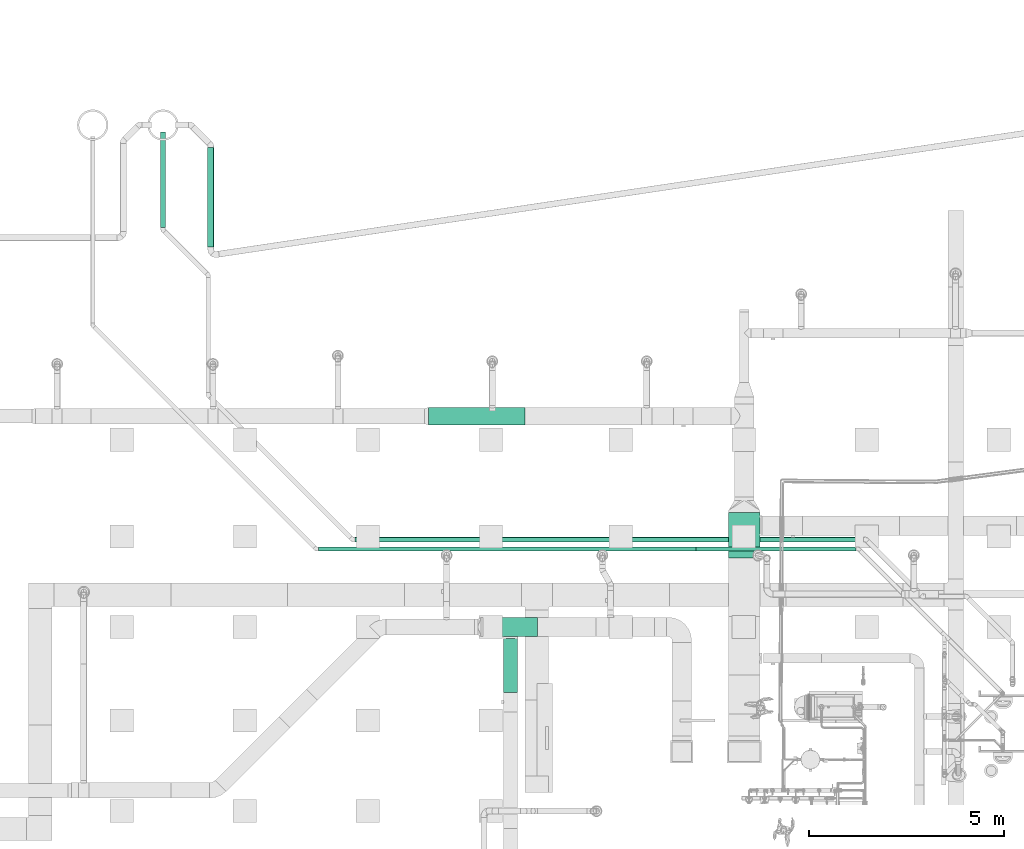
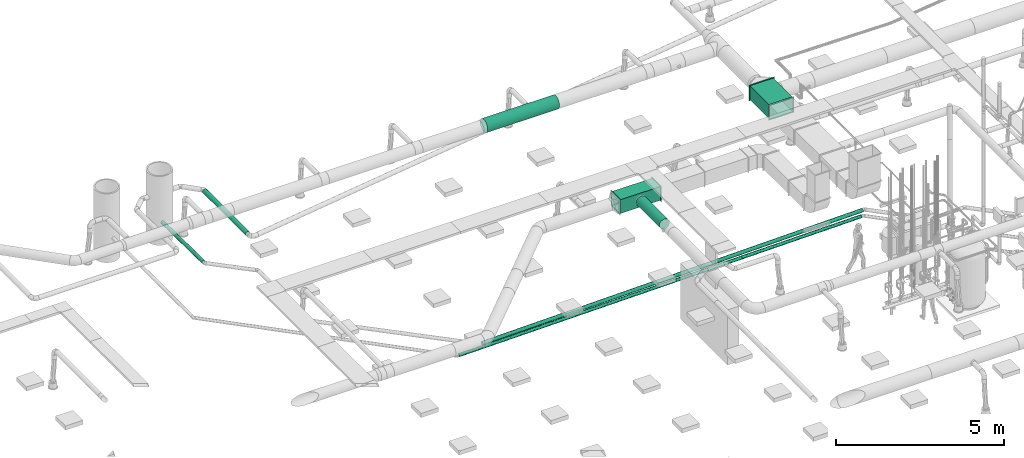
# One storey, part 222 of 374: 9 flow segments.
"""IFC2X3 building model written with IfcOpenShell, lengths in metres."""

from ifc_helpers import new_model, si_unit, direction, origin, place, context, subcontext, project, spatial, open_shell, surface_model, source, transform, mapped, element, save


model = new_model("IFC2X3")

# Units and contexts
model_context = context("Model", 3, precision=1e-05, world=origin(), true_north=direction((-0.4480736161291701, 0.8939966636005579)))
body_context = subcontext(model_context, "Body", "Model", "MODEL_VIEW")
ifc_project = project(units=[si_unit("LENGTHUNIT", "METRE"), si_unit("AREAUNIT", "SQUARE_METRE"), si_unit("VOLUMEUNIT", "CUBIC_METRE"), si_unit("PLANEANGLEUNIT", "RADIAN"), si_unit("THERMODYNAMICTEMPERATUREUNIT", "KELVIN"), si_unit("MASSUNIT", "GRAM", prefix="KILO"), si_unit("TIMEUNIT", "SECOND")], contexts=[model_context])

# Site, building, storey
site_placement = place(None, origin())
site = spatial("IfcSite", under=ifc_project, at=site_placement, Name="Site 1", CompositionType="ELEMENT")
building_placement = place(site_placement, origin())
building = spatial("IfcBuilding", under=site, at=building_placement, Name="Undefined", CompositionType="ELEMENT")
storey_placement = place(building_placement, origin())
storey = spatial("IfcBuildingStorey", under=building, at=storey_placement, Name="Rez de chauss\x8ee", CompositionType="ELEMENT", Elevation=0.0)

# Flow segments
shared_shape_1 = source(origin(), body_context, "Body", "SurfaceModel", [
    surface_model("IfcFaceBasedSurfaceModel", [(0.0, 0.020884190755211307, 0.0), (0.0, 0.0, 0.0), (2.554618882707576, 0.0, -1.776356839e-15), (2.554618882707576, 0.020884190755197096, -1.776356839e-15), (0.0, -0.020172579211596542, -0.005405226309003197), (2.554618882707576, -0.020172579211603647, -0.005405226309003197), (0.0, -0.03825881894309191, -0.015847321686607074), (2.554618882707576, -0.03825881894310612, -0.015847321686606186), (0.0, -0.05302617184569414, -0.0306146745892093), (2.554618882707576, -0.05302617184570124, -0.030614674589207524), (0.0, -0.06346826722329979, -0.04870091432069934), (2.554618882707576, -0.0634682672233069, -0.048700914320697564), (0.0, -0.06887349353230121, -0.06887349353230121), (2.554618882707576, -0.06887349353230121, -0.06887349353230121), (0.0, -0.06887349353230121, -0.08975768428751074), (2.554618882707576, -0.06887349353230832, -0.08975768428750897), (0.0, -0.06346826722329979, -0.10993026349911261), (2.554618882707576, -0.0634682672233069, -0.10993026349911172), (0.0, -0.05302617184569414, -0.12801650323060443), (2.554618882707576, -0.05302617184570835, -0.12801650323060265), (0.0, -0.038258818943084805, -0.14278385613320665), (2.554618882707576, -0.038258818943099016, -0.14278385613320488), (0.0, -0.020172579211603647, -0.15322595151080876), (2.554618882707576, -0.020172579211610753, -0.15322595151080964), (0.0, 7.105427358e-15, -0.15863117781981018), (2.554618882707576, -7.105427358e-15, -0.15863117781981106), (0.0, 0.020884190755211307, -0.15863117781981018), (2.554618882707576, 0.020884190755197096, -0.15863117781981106), (0.0, 0.04105676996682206, -0.15322595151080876), (2.554618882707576, 0.041056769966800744, -0.15322595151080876), (0.0, 0.05914300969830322, -0.1427838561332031), (2.554618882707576, 0.05914300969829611, -0.14278385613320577), (0.0, 0.07391036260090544, -0.12801650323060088), (2.554618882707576, 0.07391036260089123, -0.12801650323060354), (0.0, 0.0843524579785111, -0.10993026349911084), (2.554618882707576, 0.08435245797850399, -0.10993026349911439), (0.0, 0.08975768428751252, -0.08975768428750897), (2.554618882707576, 0.08975768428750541, -0.08975768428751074), (0.0, 0.08975768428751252, -0.06887349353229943), (2.554618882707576, 0.08975768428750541, -0.06887349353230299), (0.0, 0.0843524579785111, -0.048700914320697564), (2.554618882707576, 0.08435245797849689, -0.04870091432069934), (0.0, 0.07391036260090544, -0.030614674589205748), (2.554618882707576, 0.07391036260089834, -0.0306146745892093), (0.0, 0.05914300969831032, -0.015847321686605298), (2.554618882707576, 0.05914300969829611, -0.015847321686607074), (0.0, 0.04105676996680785, -0.005405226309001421), (2.554618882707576, 0.04105676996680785, -0.005405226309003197)], [open_shell([[[0, 1, 2, 3]], [[1, 4, 5, 2]], [[4, 6, 7, 5]], [[6, 8, 9, 7]], [[8, 10, 11, 9]], [[10, 12, 13, 11]], [[12, 14, 15, 13]], [[14, 16, 17, 15]], [[16, 18, 19, 17]], [[18, 20, 21, 19]], [[20, 22, 23, 21]], [[22, 24, 25, 23]], [[24, 26, 27, 25]], [[26, 28, 29, 27]], [[28, 30, 31, 29]], [[30, 32, 33, 31]], [[32, 34, 35, 33]], [[34, 36, 37, 35]], [[36, 38, 39, 37]], [[38, 40, 41, 39]], [[40, 42, 43, 41]], [[42, 44, 45, 43]], [[44, 46, 47, 45]], [[46, 0, 3, 47]]])]),
])
flow_segment_1_placement = place(storey_placement, origin())
element("IfcFlowSegment", 1, at=flow_segment_1_placement, inside=storey, Name="PE-HD tuyau", ObjectType="PE-HD tuyau", context=body_context, shape_type="MappedRepresentation", body=[
    mapped(shared_shape_1, transform((38.25758280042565, 24.87054166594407, -0.7163137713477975), x_axis=(0.0, 1.0, 0.0), y_axis=(-0.9914448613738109, 0.0, 0.1305261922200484), z_axis=(0.1305261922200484, 0.0, 0.9914448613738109))),
])
shared_shape_2 = source(origin(), body_context, "Body", "SurfaceModel", [
    surface_model("IfcFaceBasedSurfaceModel", [(0.0, 0.014357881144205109, -3.552713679e-15), (0.0, 0.0, 0.0), (4.118798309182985, -3.552713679e-15, 0.0), (4.118798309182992, 0.014357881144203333, 0.0), (0.0, -0.01386864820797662, -0.0037160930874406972), (4.118798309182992, -0.013868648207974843, -0.003716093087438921), (0.0, -0.026302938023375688, -0.010895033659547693), (4.118798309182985, -0.026302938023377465, -0.010895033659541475), (0.0, -0.03645549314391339, -0.021047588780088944), (4.118798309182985, -0.036455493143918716, -0.021047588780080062), (0.0, -0.04363443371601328, -0.033481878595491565), (4.118798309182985, -0.043634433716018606, -0.03348187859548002), (0.0, -0.04735052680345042, -0.04735052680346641), (4.118798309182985, -0.0473505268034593, -0.04735052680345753), (0.0, -0.04735052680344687, -0.06170840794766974), (4.118798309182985, -0.0473505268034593, -0.061708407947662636), (0.0, -0.04363443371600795, -0.07557705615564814), (4.118798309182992, -0.04363443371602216, -0.07557705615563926), (0.0, -0.03645549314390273, -0.08801134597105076), (4.118798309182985, -0.036455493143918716, -0.0880113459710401), (0.0, -0.026302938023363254, -0.0981639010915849), (4.118798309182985, -0.026302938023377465, -0.0981639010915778), (0.0, -0.013868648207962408, -0.1053428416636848), (4.118798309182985, -0.013868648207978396, -0.10534284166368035), (0.0, 1.5987211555e-14, -0.10905893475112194), (4.118798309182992, 0.0, -0.10905893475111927), (0.0, 0.014357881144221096, -0.10905893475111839), (4.118798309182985, 0.014357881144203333, -0.10905893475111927), (0.0, 0.028226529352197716, -0.10534284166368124), (4.118798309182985, 0.02822652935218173, -0.10534284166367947), (0.0, 0.040660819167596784, -0.0981639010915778), (4.118798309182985, 0.0406608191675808, -0.0981639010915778), (0.0, 0.05081337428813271, -0.08801134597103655), (4.118798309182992, 0.050813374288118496, -0.08801134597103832), (0.0, 0.05799231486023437, -0.07557705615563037), (4.118798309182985, 0.05799231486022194, -0.07557705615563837), (0.0, 0.06170840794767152, -0.06170840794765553), (4.118798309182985, 0.06170840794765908, -0.061708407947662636), (0.0, 0.061708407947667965, -0.0473505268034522), (4.118798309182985, 0.061708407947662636, -0.04735052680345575), (0.0, 0.05799231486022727, -0.033481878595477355), (4.118798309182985, 0.05799231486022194, -0.03348187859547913), (0.0, 0.050813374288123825, -0.021047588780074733), (4.118798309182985, 0.05081337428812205, -0.021047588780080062), (0.0, 0.04066081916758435, -0.010895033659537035), (4.118798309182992, 0.04066081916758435, -0.010895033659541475), (0.0, 0.028226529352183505, -0.0037160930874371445), (4.118798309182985, 0.028226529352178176, -0.003716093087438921)], [open_shell([[[0, 1, 2, 3]], [[1, 4, 5, 2]], [[4, 6, 7, 5]], [[6, 8, 9, 7]], [[8, 10, 11, 9]], [[10, 12, 13, 11]], [[12, 14, 15, 13]], [[14, 16, 17, 15]], [[16, 18, 19, 17]], [[18, 20, 21, 19]], [[20, 22, 23, 21]], [[22, 24, 25, 23]], [[24, 26, 27, 25]], [[26, 28, 29, 27]], [[28, 30, 31, 29]], [[30, 32, 33, 31]], [[32, 34, 35, 33]], [[34, 36, 37, 35]], [[36, 38, 39, 37]], [[38, 40, 41, 39]], [[40, 42, 43, 41]], [[42, 44, 45, 43]], [[44, 46, 47, 45]], [[46, 0, 3, 47]]])]),
])
flow_segment_2_placement = place(storey_placement, origin())
element("IfcFlowSegment", 2, at=flow_segment_2_placement, inside=storey, Name="PE-HD tuyau", ObjectType="PE-HD tuyau", context=body_context, shape_type="MappedRepresentation", body=[
    mapped(shared_shape_2, transform((50.69233432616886, 17.10189629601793, -1.269252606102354), x_axis=(0.9998875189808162, 0.0, 0.014998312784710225), y_axis=(-0.0019576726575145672, 0.9914448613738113, 0.13051151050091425), z_axis=(-0.014870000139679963, -0.13052619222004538, 0.9913333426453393))),
])
shared_shape_3 = source(origin(), body_context, "Body", "SurfaceModel", [
    surface_model("IfcFaceBasedSurfaceModel", [(0.0, 0.014357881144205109, -3.552713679e-15), (0.0, 0.0, 0.0), (9.692104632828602, -3.552713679e-15, -3.33066907e-16), (9.69210463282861, 0.01435788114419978, -5.55111512e-16), (0.0, -0.01386864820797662, -0.0037160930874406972), (9.692104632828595, -0.013868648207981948, -0.003716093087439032), (0.0, -0.026302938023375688, -0.010895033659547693), (9.692104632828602, -0.02630293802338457, -0.01089503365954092), (0.0, -0.03645549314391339, -0.021047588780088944), (9.692104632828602, -0.03645549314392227, -0.021047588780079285), (0.0, -0.04363443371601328, -0.033481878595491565), (9.692104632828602, -0.04363443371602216, -0.0334818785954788), (0.0, -0.04735052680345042, -0.04735052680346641), (9.692104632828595, -0.0473505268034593, -0.04735052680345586), (0.0, -0.04735052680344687, -0.06170840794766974), (9.692104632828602, -0.047350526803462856, -0.06170840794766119), (0.0, -0.04363443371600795, -0.07557705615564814), (9.692104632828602, -0.04363443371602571, -0.07557705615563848), (0.0, -0.03645549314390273, -0.08801134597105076), (9.692104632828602, -0.03645549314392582, -0.08801134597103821), (0.0, -0.026302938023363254, -0.0981639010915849), (9.69210463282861, -0.02630293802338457, -0.0981639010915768), (0.0, -0.013868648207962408, -0.1053428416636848), (9.692104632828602, -0.013868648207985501, -0.10534284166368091), (0.0, 1.5987211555e-14, -0.10905893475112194), (9.692104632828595, -7.105427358e-15, -0.10905893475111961), (0.0, 0.014357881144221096, -0.10905893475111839), (9.692104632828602, 0.014357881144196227, -0.10905893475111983), (0.0, 0.028226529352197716, -0.10534284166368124), (9.69210463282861, 0.028226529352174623, -0.10534284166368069), (0.0, 0.040660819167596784, -0.0981639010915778), (9.692104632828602, 0.04066081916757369, -0.0981639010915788), (0.0, 0.05081337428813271, -0.08801134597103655), (9.692104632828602, 0.05081337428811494, -0.0880113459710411), (0.0, 0.05799231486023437, -0.07557705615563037), (9.692104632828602, 0.057992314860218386, -0.07557705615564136), (0.0, 0.06170840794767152, -0.06170840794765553), (9.692104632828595, 0.06170840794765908, -0.06170840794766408), (0.0, 0.061708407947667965, -0.0473505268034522), (9.692104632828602, 0.06170840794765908, -0.04735052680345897), (0.0, 0.05799231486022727, -0.033481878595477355), (9.692104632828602, 0.057992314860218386, -0.033481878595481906), (0.0, 0.050813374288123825, -0.021047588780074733), (9.692104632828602, 0.05081337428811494, -0.021047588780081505), (0.0, 0.04066081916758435, -0.010895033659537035), (9.692104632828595, 0.040660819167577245, -0.010895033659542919), (0.0, 0.028226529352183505, -0.0037160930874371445), (9.692104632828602, 0.028226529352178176, -0.003716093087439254)], [open_shell([[[0, 1, 2, 3]], [[1, 4, 5, 2]], [[4, 6, 7, 5]], [[6, 8, 9, 7]], [[8, 10, 11, 9]], [[10, 12, 13, 11]], [[12, 14, 15, 13]], [[14, 16, 17, 15]], [[16, 18, 19, 17]], [[18, 20, 21, 19]], [[20, 22, 23, 21]], [[22, 24, 25, 23]], [[24, 26, 27, 25]], [[26, 28, 29, 27]], [[28, 30, 31, 29]], [[30, 32, 33, 31]], [[32, 34, 35, 33]], [[34, 36, 37, 35]], [[36, 38, 39, 37]], [[38, 40, 41, 39]], [[40, 42, 43, 41]], [[42, 44, 45, 43]], [[44, 46, 47, 45]], [[46, 0, 3, 47]]])]),
])
flow_segment_3_placement = place(storey_placement, origin())
element("IfcFlowSegment", 3, at=flow_segment_3_placement, inside=storey, Name="PE-HD tuyau", ObjectType="PE-HD tuyau", context=body_context, shape_type="MappedRepresentation", body=[
    mapped(shared_shape_3, transform((50.69233432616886, 17.130366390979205, -1.269252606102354), x_axis=(-0.9998875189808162, 0.0, -0.014998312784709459), y_axis=(-0.0019576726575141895, -0.9914448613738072, 0.13051151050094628), z_axis=(-0.014870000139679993, 0.13052619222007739, 0.9913333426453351))),
])
shared_shape_4 = source(origin(), body_context, "Body", "SurfaceModel", [
    surface_model("IfcFaceBasedSurfaceModel", [(0.0, 0.0163157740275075, 0.0), (0.0, 0.0, 0.0), (13.058117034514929, 0.0, -7.21644966e-16), (13.058117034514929, 0.016315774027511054, -7.21644966e-16), (0.0, -0.015759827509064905, -0.004222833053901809), (13.058117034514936, -0.015759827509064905, -0.004222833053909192), (0.0, -0.029889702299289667, -0.012380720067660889), (13.058117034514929, -0.029889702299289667, -0.01238072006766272), (0.0, -0.04142669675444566, -0.02391771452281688), (13.058117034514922, -0.04142669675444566, -0.023917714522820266), (0.0, -0.04958458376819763, -0.038047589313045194), (13.058117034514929, -0.049584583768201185, -0.038047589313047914), (0.0, -0.053807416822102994, -0.053807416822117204), (13.058117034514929, -0.0538074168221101, -0.053807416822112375), (0.0, -0.053807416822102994, -0.07012319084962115), (13.058117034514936, -0.053807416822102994, -0.07012319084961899), (0.0, -0.04958458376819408, -0.08588301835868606), (13.058117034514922, -0.049584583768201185, -0.08588301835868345), (0.0, -0.04142669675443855, -0.10001289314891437), (13.058117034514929, -0.041426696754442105, -0.10001289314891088), (0.0, -0.02988970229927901, -0.11154988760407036), (13.058117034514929, -0.029889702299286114, -0.11154988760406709), (0.0, -0.015759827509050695, -0.11970777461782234), (13.058117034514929, -0.0157598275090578, -0.11970777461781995), (0.0, 1.4210854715e-14, -0.12393060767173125), (13.058117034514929, 3.552713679e-15, -0.12393060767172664), (0.0, 0.016315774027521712, -0.12393060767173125), (13.058117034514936, 0.016315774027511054, -0.12393060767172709), (0.0, 0.03207560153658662, -0.11970777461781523), (13.058117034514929, 0.03207560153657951, -0.11970777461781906), (0.0, 0.04620547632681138, -0.11154988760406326), (13.058117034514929, 0.04620547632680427, -0.11154988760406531), (0.0, 0.05774247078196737, -0.10001289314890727), (13.058117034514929, 0.05774247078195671, -0.10001289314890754), (0.0, 0.06590035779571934, -0.08588301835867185), (13.058117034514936, 0.06590035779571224, -0.08588301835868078), (0.0, 0.0701231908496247, -0.07012319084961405), (13.058117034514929, 0.07012319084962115, -0.07012319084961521), (0.0, 0.0701231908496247, -0.05380741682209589), (13.058117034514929, 0.0701231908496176, -0.05380741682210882), (0.0, 0.06590035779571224, -0.03804758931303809), (13.058117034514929, 0.06590035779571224, -0.03804758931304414), (0.0, 0.05774247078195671, -0.023917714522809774), (13.058117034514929, 0.05774247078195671, -0.023917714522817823), (0.0, 0.04620547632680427, -0.012380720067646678), (13.058117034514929, 0.04620547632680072, -0.0123807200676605), (0.0, 0.03207560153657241, -0.004222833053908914), (13.058117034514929, 0.03207560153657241, -0.00422283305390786)], [open_shell([[[0, 1, 2, 3]], [[1, 4, 5, 2]], [[4, 6, 7, 5]], [[6, 8, 9, 7]], [[8, 10, 11, 9]], [[10, 12, 13, 11]], [[12, 14, 15, 13]], [[14, 16, 17, 15]], [[16, 18, 19, 17]], [[18, 20, 21, 19]], [[20, 22, 23, 21]], [[22, 24, 25, 23]], [[24, 26, 27, 25]], [[26, 28, 29, 27]], [[28, 30, 31, 29]], [[30, 32, 33, 31]], [[32, 34, 35, 33]], [[34, 36, 37, 35]], [[36, 38, 39, 37]], [[38, 40, 41, 39]], [[40, 42, 43, 41]], [[42, 44, 45, 43]], [[44, 46, 47, 45]], [[46, 0, 3, 47]]])]),
])
flow_segment_4_placement = place(storey_placement, origin())
element("IfcFlowSegment", 4, at=flow_segment_4_placement, inside=storey, Name="PE-HD tuyau", ObjectType="PE-HD tuyau", context=body_context, shape_type="MappedRepresentation", body=[
    mapped(shared_shape_4, transform((54.992901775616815, 17.37789924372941, -1.1912009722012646), x_axis=(-0.9998000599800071, 0.0, -0.01999600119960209), y_axis=(-0.0027741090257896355, -0.9903297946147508, 0.13870545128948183), z_axis=(-0.019802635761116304, 0.13873318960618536, 0.9901317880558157))),
])
shared_shape_5 = source(origin(), body_context, "Body", "SurfaceModel", [
    surface_model("IfcFaceBasedSurfaceModel", [(0.0, 0.0163157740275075, 0.0), (0.0, 0.0, 0.0), (2.4500000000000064, 0.0, 1.33226763e-15), (2.4500000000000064, 0.01631577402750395, 4.4408921e-16), (0.0, -0.015759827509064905, -0.004222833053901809), (2.4499999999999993, -0.0157598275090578, -0.004222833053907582), (0.0, -0.029889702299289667, -0.012380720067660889), (2.4500000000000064, -0.029889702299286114, -0.012380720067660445), (0.0, -0.04142669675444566, -0.02391771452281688), (2.450000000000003, -0.04142669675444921, -0.023917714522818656), (0.0, -0.04958458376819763, -0.038047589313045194), (2.4500000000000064, -0.04958458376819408, -0.03804758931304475), (0.0, -0.053807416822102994, -0.053807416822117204), (2.450000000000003, -0.05380741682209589, -0.05380741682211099), (0.0, -0.053807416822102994, -0.07012319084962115), (2.450000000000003, -0.0538074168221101, -0.07012319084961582), (0.0, -0.04958458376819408, -0.08588301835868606), (2.450000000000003, -0.04958458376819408, -0.08588301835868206), (0.0, -0.04142669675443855, -0.10001289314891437), (2.4500000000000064, -0.04142669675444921, -0.10001289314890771), (0.0, -0.02988970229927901, -0.11154988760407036), (2.4500000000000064, -0.029889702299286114, -0.11154988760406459), (0.0, -0.015759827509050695, -0.11970777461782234), (2.450000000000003, -0.0157598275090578, -0.1197077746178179), (0.0, 1.4210854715e-14, -0.12393060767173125), (2.450000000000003, 1.4210854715e-14, -0.12393060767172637), (0.0, 0.016315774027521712, -0.12393060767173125), (2.450000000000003, 0.016315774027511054, -0.12393060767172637), (0.0, 0.03207560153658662, -0.11970777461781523), (2.45000000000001, 0.032075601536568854, -0.1197077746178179), (0.0, 0.04620547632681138, -0.11154988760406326), (2.450000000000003, 0.04620547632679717, -0.11154988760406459), (0.0, 0.05774247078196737, -0.10001289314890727), (2.4500000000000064, 0.057742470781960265, -0.10001289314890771), (0.0, 0.06590035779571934, -0.08588301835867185), (2.450000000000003, 0.06590035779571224, -0.08588301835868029), (0.0, 0.0701231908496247, -0.07012319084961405), (2.4500000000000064, 0.07012319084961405, -0.07012319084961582), (0.0, 0.0701231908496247, -0.05380741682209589), (2.4500000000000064, 0.07012319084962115, -0.05380741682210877), (0.0, 0.06590035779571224, -0.03804758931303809), (2.4500000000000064, 0.06590035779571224, -0.038047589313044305), (0.0, 0.05774247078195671, -0.023917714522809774), (2.450000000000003, 0.05774247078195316, -0.023917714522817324), (0.0, 0.04620547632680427, -0.012380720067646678), (2.450000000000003, 0.04620547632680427, -0.012380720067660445), (0.0, 0.03207560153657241, -0.004222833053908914), (2.4499999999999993, 0.032075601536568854, -0.004222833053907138)], [open_shell([[[0, 1, 2, 3]], [[1, 4, 5, 2]], [[4, 6, 7, 5]], [[6, 8, 9, 7]], [[8, 10, 11, 9]], [[10, 12, 13, 11]], [[12, 14, 15, 13]], [[14, 16, 17, 15]], [[16, 18, 19, 17]], [[18, 20, 21, 19]], [[20, 22, 23, 21]], [[22, 24, 25, 23]], [[24, 26, 27, 25]], [[26, 28, 29, 27]], [[28, 30, 31, 29]], [[30, 32, 33, 31]], [[32, 34, 35, 33]], [[34, 36, 37, 35]], [[36, 38, 39, 37]], [[38, 40, 41, 39]], [[40, 42, 43, 41]], [[42, 44, 45, 43]], [[44, 46, 47, 45]], [[46, 0, 3, 47]]])]),
])
flow_segment_5_placement = place(storey_placement, origin())
element("IfcFlowSegment", 5, at=flow_segment_5_placement, inside=storey, Name="PE-HD tuyau", ObjectType="PE-HD tuyau", context=body_context, shape_type="MappedRepresentation", body=[
    mapped(shared_shape_5, transform((37.026960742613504, 25.371429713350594, -1.635259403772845), x_axis=(-6.564632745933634e-05, 0.9998999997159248, -0.014141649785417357), y_axis=(-0.993191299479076, 0.001582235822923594, 0.11648407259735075), z_axis=(0.11649479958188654, 0.014053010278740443, 0.9930918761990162))),
])
shared_shape_6 = source(origin(), body_context, "Body", "SurfaceModel", [
    surface_model("IfcFaceBasedSurfaceModel", [(0.0, 0.0, 0.0), (0.5800000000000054, 0.0, 0.0), (0.5400000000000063, 0.040000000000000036, 0.0), (0.04000000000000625, 0.040000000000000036, 0.0), (0.5800000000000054, 0.5800000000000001, 0.0), (0.5400000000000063, 0.54, 0.0), (0.0, 0.5800000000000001, 0.0), (0.04000000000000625, 0.54, 0.0), (0.0, 0.0, -1.3964210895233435), (0.5800000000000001, 0.0, -1.3964210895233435), (0.5399999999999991, 0.040000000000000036, -1.3964210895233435), (0.03999999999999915, 0.040000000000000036, -1.3964210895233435), (0.5800000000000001, 0.5800000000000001, -1.3964210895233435), (0.5399999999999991, 0.54, -1.3964210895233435), (0.0, 0.5800000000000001, -1.3964210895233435), (0.03999999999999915, 0.54, -1.3964210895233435), (0.04000000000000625, 0.54, 0.0030000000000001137), (0.03999999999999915, 0.54, -1.3994210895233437), (0.03999999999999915, 0.040000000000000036, -1.3994210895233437), (0.04000000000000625, 0.040000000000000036, 0.0030000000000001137), (0.5399999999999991, 0.040000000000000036, -1.3994210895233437), (0.5400000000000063, 0.040000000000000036, 0.0030000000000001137), (0.5399999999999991, 0.54, -1.3994210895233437), (0.5400000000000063, 0.54, 0.0030000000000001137)], [open_shell([[[0, 1, 2, 3]], [[1, 4, 5, 2]], [[6, 4, 5, 7]], [[0, 6, 7, 3]], [[8, 9, 10, 11]], [[9, 12, 13, 10]], [[14, 12, 13, 15]], [[8, 14, 15, 11]], [[16, 17, 18, 19]], [[19, 18, 20, 21]], [[21, 20, 22, 23]], [[23, 22, 17, 16]]])]),
])
flow_segment_6_placement = place(storey_placement, origin())
element("IfcFlowSegment", 6, at=flow_segment_6_placement, inside=storey, Name="Gaine de ventilation", ObjectType="Gaine de ventilation", context=body_context, shape_type="MappedRepresentation", body=[
    mapped(shared_shape_6, transform((46.62989142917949, 15.403573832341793, 4.090000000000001), x_axis=(0.0, -1.0, 0.0), y_axis=(0.0, 0.0, -1.0), z_axis=(1.0, 0.0, 0.0))),
])
shared_shape_7 = source(origin(), body_context, "Body", "SurfaceModel", [
    surface_model("IfcFaceBasedSurfaceModel", [(0.0, 0.046336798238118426, 0.0), (0.0, 0.0, 0.0), (1.3783903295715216, 0.0, -1.776356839e-15), (1.3783903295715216, 0.04633679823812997, -1.776356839e-15), (0.0, -0.044757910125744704, -0.0119928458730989), (1.3783903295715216, -0.04475791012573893, -0.011992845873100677), (0.0, -0.08488675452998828, -0.035161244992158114), (1.3783903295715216, -0.08488675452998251, -0.03516124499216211), (0.0, -0.11765181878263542, -0.06792630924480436), (1.3783903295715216, -0.1176518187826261, -0.06792630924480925), (0.0, -0.1408202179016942, -0.10805515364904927), (1.3783903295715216, -0.14082021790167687, -0.1080551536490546), (0.0, -0.15281306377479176, -0.15281306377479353), (1.3783903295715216, -0.15281306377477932, -0.15281306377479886), (0.0, -0.1528130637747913, -0.19914986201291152), (1.3783903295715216, -0.15281306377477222, -0.19914986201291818), (0.0, -0.14082021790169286, -0.24390777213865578), (1.3783903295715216, -0.14082021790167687, -0.24390777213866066), (0.0, -0.11765181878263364, -0.2840366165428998), (1.3783903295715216, -0.11765181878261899, -0.28403661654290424), (0.0, -0.0848867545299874, -0.31680168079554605), (1.3783903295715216, -0.0848867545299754, -0.3168016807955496), (0.0, -0.044757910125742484, -0.3399700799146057), (1.3783903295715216, -0.044757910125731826, -0.33997007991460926), (0.0, 1.776356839e-15, -0.35196292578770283), (1.3783903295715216, 2.1316282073e-14, -0.3519629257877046), (0.0, 0.0463367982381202, -0.3519629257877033), (1.3783903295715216, 0.04633679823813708, -0.3519629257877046), (0.0, 0.09109470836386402, -0.3399700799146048), (1.3783903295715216, 0.09109470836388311, -0.3399700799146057), (0.0, 0.13122355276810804, -0.31680168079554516), (1.3783903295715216, 0.1312235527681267, -0.31680168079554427), (0.0, 0.16398861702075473, -0.2840366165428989), (1.3783903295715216, 0.16398861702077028, -0.28403661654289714), (0.0, 0.18715701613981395, -0.243907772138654), (1.3783903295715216, 0.18715701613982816, -0.24390777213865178), (0.0, 0.19914986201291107, -0.19914986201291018), (1.3783903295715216, 0.1991498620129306, -0.19914986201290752), (0.0, 0.19914986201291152, -0.15281306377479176), (1.3783903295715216, 0.1991498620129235, -0.1528130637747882), (0.0, 0.18715701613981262, -0.1080551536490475), (1.3783903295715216, 0.18715701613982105, -0.10805515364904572), (0.0, 0.1639886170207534, -0.06792630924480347), (1.3783903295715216, 0.16398861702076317, -0.06792630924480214), (0.0, 0.1312235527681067, -0.03516124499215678), (1.3783903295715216, 0.1312235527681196, -0.03516124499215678), (0.0, 0.09109470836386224, -0.011992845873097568), (1.3783903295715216, 0.0910947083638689, -0.011992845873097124)], [open_shell([[[0, 1, 2, 3]], [[1, 4, 5, 2]], [[4, 6, 7, 5]], [[6, 8, 9, 7]], [[8, 10, 11, 9]], [[10, 12, 13, 11]], [[12, 14, 15, 13]], [[14, 16, 17, 15]], [[16, 18, 19, 17]], [[18, 20, 21, 19]], [[20, 22, 23, 21]], [[22, 24, 25, 23]], [[24, 26, 27, 25]], [[26, 28, 29, 27]], [[28, 30, 31, 29]], [[30, 32, 33, 31]], [[32, 34, 35, 33]], [[34, 36, 37, 35]], [[36, 38, 39, 37]], [[38, 40, 41, 39]], [[40, 42, 43, 41]], [[42, 44, 45, 43]], [[44, 46, 47, 45]], [[46, 0, 3, 47]]])]),
])
flow_segment_7_placement = place(storey_placement, origin())
element("IfcFlowSegment", 7, at=flow_segment_7_placement, inside=storey, Name="Tube", ObjectType="Tube", context=body_context, shape_type="MappedRepresentation", body=[
    mapped(shared_shape_7, transform((45.98215758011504, 13.435183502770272, 3.9714518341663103), x_axis=(0.0, 1.0, 0.0), y_axis=(-0.9914448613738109, 0.0, 0.1305261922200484), z_axis=(0.1305261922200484, 0.0, 0.9914448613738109))),
])
shared_shape_8 = source(origin(), body_context, "Body", "SurfaceModel", [
    surface_model("IfcFaceBasedSurfaceModel", [(0.0, 0.0, 0.0), (0.8800000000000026, 0.0, 0.0), (0.8400000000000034, 0.040000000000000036, -7.105427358e-15), (0.04000000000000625, 0.040000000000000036, 0.0), (0.8800000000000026, 0.5800000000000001, -2.842170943e-14), (0.8400000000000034, 0.54, -2.842170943e-14), (0.0, 0.5800000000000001, 0.0), (0.04000000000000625, 0.54, 0.0), (-7.105427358e-15, -4.2632564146e-14, -1.1712712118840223), (0.8799999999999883, -4.2632564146e-14, -1.1712712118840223), (0.8399999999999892, 0.0399999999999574, -1.1712712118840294), (0.03999999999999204, 0.0399999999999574, -1.1712712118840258), (0.8799999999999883, 0.579999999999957, -1.1712712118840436), (0.8399999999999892, 0.539999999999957, -1.1712712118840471), (-7.105427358e-15, 0.579999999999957, -1.1712712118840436), (0.03999999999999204, 0.539999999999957, -1.1712712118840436), (0.04000000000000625, 0.54, 0.0030000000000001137), (0.03999999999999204, 0.539999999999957, -1.1742712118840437), (0.03999999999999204, 0.0399999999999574, -1.174271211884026), (0.04000000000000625, 0.040000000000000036, 0.0030000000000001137), (0.8399999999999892, 0.0399999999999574, -1.1742712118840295), (0.8400000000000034, 0.040000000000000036, 0.0029999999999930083), (0.8399999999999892, 0.539999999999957, -1.1742712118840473), (0.8400000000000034, 0.54, 0.002999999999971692)], [open_shell([[[0, 1, 2, 3]], [[1, 4, 5, 2]], [[6, 4, 5, 7]], [[0, 6, 7, 3]], [[8, 9, 10, 11]], [[9, 12, 13, 10]], [[14, 12, 13, 15]], [[8, 14, 15, 11]], [[16, 17, 18, 19]], [[19, 18, 20, 21]], [[21, 20, 22, 23]], [[23, 22, 17, 16]]])]),
])
flow_segment_8_placement = place(storey_placement, origin())
element("IfcFlowSegment", 8, at=flow_segment_8_placement, inside=storey, Name="Gaine de ventilation", ObjectType="Gaine de ventilation", context=body_context, shape_type="MappedRepresentation", body=[
    mapped(shared_shape_8, transform((51.49499507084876, 18.053867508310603, 4.090000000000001), x_axis=(1.0, 0.0, 0.0), y_axis=(0.0, 0.0, -1.0), z_axis=(0.0, 1.0, 0.0))),
])
shared_shape_9 = source(origin(), body_context, "Body", "SurfaceModel", [
    surface_model("IfcFaceBasedSurfaceModel", [(0.0, 0.05873678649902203, -2.77555756e-16), (0.0, 0.0, 0.0), (2.46815765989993, 3.552713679e-15, 0.0), (2.46815765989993, 0.058736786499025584, 0.0), (0.0, -0.05673537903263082, -0.015202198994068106), (2.46815765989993, -0.05673537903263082, -0.015202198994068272), (0.0, -0.10760292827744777, -0.044570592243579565), (2.46815765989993, -0.10760292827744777, -0.04457059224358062), (0.0, -0.14913610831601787, -0.08610377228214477), (2.46815765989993, -0.14913610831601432, -0.08610377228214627), (0.0, -0.1785045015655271, -0.13697132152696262), (2.46815765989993, -0.17850450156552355, -0.13697132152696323), (0.0, -0.19370670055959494, -0.1937067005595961), (2.46815765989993, -0.19370670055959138, -0.19370670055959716), (0.0, -0.19370670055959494, -0.252443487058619), (2.46815765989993, -0.19370670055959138, -0.2524434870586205), (0.0, -0.1785045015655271, -0.30917886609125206), (2.46815765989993, -0.17850450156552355, -0.309178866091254), (0.0, -0.14913610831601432, -0.36004641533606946), (2.46815765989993, -0.14913610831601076, -0.36004641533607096), (0.0, -0.10760292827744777, -0.40157959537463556), (2.46815765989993, -0.10760292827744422, -0.40157959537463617), (0.0, -0.05673537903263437, -0.43094798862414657), (2.46815765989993, -0.056735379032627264, -0.4309479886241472), (0.0, 0.0, -0.4461501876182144), (2.46815765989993, 7.105427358e-15, -0.44615018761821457), (0.0, 0.058736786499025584, -0.4461501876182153), (2.46815765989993, 0.05873678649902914, -0.44615018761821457), (0.0, 0.1154721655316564, -0.430947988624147), (2.46815765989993, 0.1154721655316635, -0.43094798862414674), (0.0, 0.16633971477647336, -0.4015795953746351), (2.46815765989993, 0.16633971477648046, -0.4015795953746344), (0.0, 0.20787289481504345, -0.3600464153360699), (2.46815765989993, 0.207872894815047, -0.36004641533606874), (0.0, 0.23724128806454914, -0.3091788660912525), (2.46815765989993, 0.23724128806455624, -0.30917886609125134), (0.0, 0.25244348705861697, -0.25244348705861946), (2.46815765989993, 0.25244348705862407, -0.2524434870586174), (0.0, 0.25244348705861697, -0.1937067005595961), (2.46815765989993, 0.25244348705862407, -0.19370670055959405), (0.0, 0.2372412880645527, -0.13697132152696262), (2.46815765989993, 0.23724128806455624, -0.136971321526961), (0.0, 0.2078728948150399, -0.08610377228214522), (2.46815765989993, 0.20787289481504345, -0.08610377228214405), (0.0, 0.16633971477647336, -0.044570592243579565), (2.46815765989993, 0.1663397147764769, -0.044570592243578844), (0.0, 0.11547216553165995, -0.01520219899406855), (2.46815765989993, 0.11547216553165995, -0.015202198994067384)], [open_shell([[[0, 1, 2, 3]], [[1, 4, 5, 2]], [[4, 6, 7, 5]], [[6, 8, 9, 7]], [[8, 10, 11, 9]], [[10, 12, 13, 11]], [[12, 14, 15, 13]], [[14, 16, 17, 15]], [[16, 18, 19, 17]], [[18, 20, 21, 19]], [[20, 22, 23, 21]], [[22, 24, 25, 23]], [[24, 26, 27, 25]], [[26, 28, 29, 27]], [[28, 30, 31, 29]], [[30, 32, 33, 31]], [[32, 34, 35, 33]], [[34, 36, 37, 35]], [[36, 38, 39, 37]], [[38, 40, 41, 39]], [[40, 42, 43, 41]], [[42, 44, 45, 43]], [[44, 46, 47, 45]], [[46, 0, 3, 47]]])]),
])
flow_segment_9_placement = place(storey_placement, origin())
element("IfcFlowSegment", 9, at=flow_segment_9_placement, inside=storey, Name="Tube", ObjectType="Tube", context=body_context, shape_type="MappedRepresentation", body=[
    mapped(shared_shape_9, transform((43.83255387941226, 20.468653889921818, 4.017333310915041), x_axis=(1.0, 0.0, 0.0), y_axis=(0.0, 0.9914448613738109, 0.1305261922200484), z_axis=(0.0, -0.1305261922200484, 0.9914448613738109))),
])

save(model, "model.ifc")
